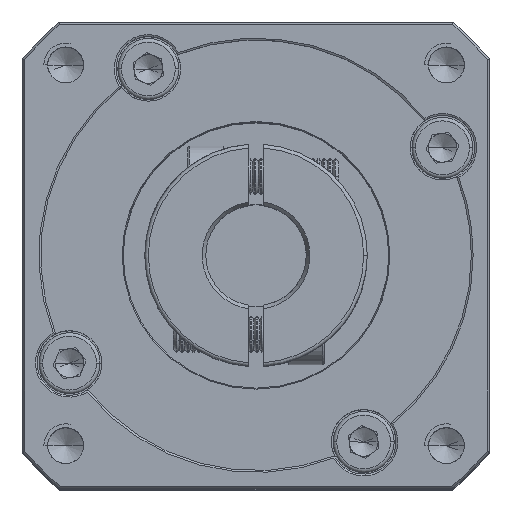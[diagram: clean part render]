
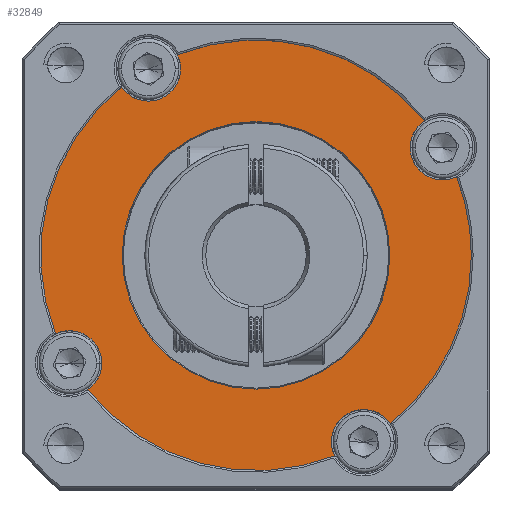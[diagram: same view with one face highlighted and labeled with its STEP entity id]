
A CAD part, top view. The second image highlights one B-rep face of the part: STEP entity #32849.
In plain terms, the highlighted planar face has unit normal (0, 0, 1).
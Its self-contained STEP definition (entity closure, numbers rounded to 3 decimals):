
#20 = VERTEX_POINT ( 'NONE', #7089 ) ;
#267 = CARTESIAN_POINT ( 'NONE',  ( -38.228, 3.707, 14.19 ) ) ;
#575 = CARTESIAN_POINT ( 'NONE',  ( -20.796, 40.632, 14.19 ) ) ;
#1557 = FACE_BOUND ( 'NONE', #57388, .T. ) ;
#2643 = AXIS2_PLACEMENT_3D ( 'NONE', #65575, #15089, #74072 ) ;
#3291 = CARTESIAN_POINT ( 'NONE',  ( -67.445, 53.132, 14.19 ) ) ;
#3900 = VERTEX_POINT ( 'NONE', #13888 ) ;
#4722 = ORIENTED_EDGE ( 'NONE', *, *, #51851, .F. ) ;
#4923 = ORIENTED_EDGE ( 'NONE', *, *, #6668, .F. ) ;
#6668 = EDGE_CURVE ( 'NONE', #83214, #20, #91219, .T. ) ;
#7089 = CARTESIAN_POINT ( 'NONE',  ( -76.66, 18.742, 14.19 ) ) ;
#7292 = CARTESIAN_POINT ( 'NONE',  ( -63.728, 55.668, 14.19 ) ) ;
#9215 = CARTESIAN_POINT ( 'NONE',  ( -22.747, 44.687, 14.19 ) ) ;
#9609 = EDGE_CURVE ( 'NONE', #46670, #53430, #36848, .T. ) ;
#9845 = CARTESIAN_POINT ( 'NONE',  ( -63.728, 55.668, 14.19 ) ) ;
#11677 = CARTESIAN_POINT ( 'NONE',  ( -48.728, 29.687, 14.19 ) ) ;
#12182 = CIRCLE ( 'NONE', #44906, 18.644 ) ;
#13844 = CIRCLE ( 'NONE', #50298, 30. ) ;
#13888 = CARTESIAN_POINT ( 'NONE',  ( -18.728, 29.687, 14.19 ) ) ;
#14749 = CARTESIAN_POINT ( 'NONE',  ( -74.709, 14.687, 14.19 ) ) ;
#14843 = CARTESIAN_POINT ( 'NONE',  ( -48.728, 29.687, 14.19 ) ) ;
#14980 = ORIENTED_EDGE ( 'NONE', *, *, #103178, .F. ) ;
#15089 = DIRECTION ( 'NONE',  ( 0., 0., -1. ) ) ;
#15280 = ORIENTED_EDGE ( 'NONE', *, *, #95419, .F. ) ;
#15794 = DIRECTION ( 'NONE',  ( 1., 0., 0. ) ) ;
#15863 = EDGE_CURVE ( 'NONE', #56618, #108224, #81700, .T. ) ;
#17709 = DIRECTION ( 'NONE',  ( 1., 0., 0. ) ) ;
#18352 = DIRECTION ( 'NONE',  ( 1., 0., 0. ) ) ;
#18980 = ORIENTED_EDGE ( 'NONE', *, *, #23046, .T. ) ;
#19310 = VERTEX_POINT ( 'NONE', #267 ) ;
#20194 = DIRECTION ( 'NONE',  ( 1., 0., 0. ) ) ;
#21512 = EDGE_CURVE ( 'NONE', #104061, #19310, #71854, .T. ) ;
#21548 = CIRCLE ( 'NONE', #47571, 4.5 ) ;
#23046 = EDGE_CURVE ( 'NONE', #104061, #3900, #89033, .T. ) ;
#23216 = DIRECTION ( 'NONE',  ( 1., 0., 0. ) ) ;
#23298 = DIRECTION ( 'NONE',  ( 1., 0., 0. ) ) ;
#23314 = VERTEX_POINT ( 'NONE', #108328 ) ;
#23394 = AXIS2_PLACEMENT_3D ( 'NONE', #9215, #68201, #17709 ) ;
#26822 = ORIENTED_EDGE ( 'NONE', *, *, #9609, .T. ) ;
#27272 = AXIS2_PLACEMENT_3D ( 'NONE', #33104, #32731, #32644 ) ;
#27386 = DIRECTION ( 'NONE',  ( 0., 0., 1. ) ) ;
#29544 = ORIENTED_EDGE ( 'NONE', *, *, #109252, .T. ) ;
#30443 = CARTESIAN_POINT ( 'NONE',  ( -33.728, 3.707, 14.19 ) ) ;
#30511 = CIRCLE ( 'NONE', #2643, 18.644 ) ;
#31710 = CIRCLE ( 'NONE', #39682, 4.5 ) ;
#32644 = DIRECTION ( 'NONE',  ( 1., 0., 0. ) ) ;
#32731 = DIRECTION ( 'NONE',  ( 0., 0., 1. ) ) ;
#32849 = ADVANCED_FACE ( 'NONE', ( #1557, #88678 ), #63364, .T. ) ;
#33104 = CARTESIAN_POINT ( 'NONE',  ( -74.709, 14.687, 14.19 ) ) ;
#33322 = CARTESIAN_POINT ( 'NONE',  ( -48.728, 29.687, 14.19 ) ) ;
#34139 = CARTESIAN_POINT ( 'NONE',  ( -59.673, 57.62, 14.19 ) ) ;
#34706 = CIRCLE ( 'NONE', #91579, 4.5 ) ;
#36848 = CIRCLE ( 'NONE', #89823, 30. ) ;
#37293 = DIRECTION ( 'NONE',  ( 0., 0., 1. ) ) ;
#37848 = CIRCLE ( 'NONE', #77724, 30. ) ;
#37945 = DIRECTION ( 'NONE',  ( 0., 0., 1. ) ) ;
#38953 = DIRECTION ( 'NONE',  ( 1., 0., 0. ) ) ;
#39367 = CIRCLE ( 'NONE', #40530, 30. ) ;
#39682 = AXIS2_PLACEMENT_3D ( 'NONE', #77879, #27386, #86416 ) ;
#39959 = CIRCLE ( 'NONE', #72295, 4.5 ) ;
#40530 = AXIS2_PLACEMENT_3D ( 'NONE', #87842, #37293, #96345 ) ;
#41150 = VERTEX_POINT ( 'NONE', #3291 ) ;
#41566 = VERTEX_POINT ( 'NONE', #45910 ) ;
#41811 = DIRECTION ( 'NONE',  ( 1., 0., 0. ) ) ;
#42485 = CARTESIAN_POINT ( 'NONE',  ( -30.01, 6.243, 14.19 ) ) ;
#42524 = ORIENTED_EDGE ( 'NONE', *, *, #78031, .T. ) ;
#43070 = VERTEX_POINT ( 'NONE', #69309 ) ;
#44906 = AXIS2_PLACEMENT_3D ( 'NONE', #47959, #107041, #56372 ) ;
#45910 = CARTESIAN_POINT ( 'NONE',  ( -59.228, 55.668, 14.19 ) ) ;
#45917 = EDGE_CURVE ( 'NONE', #46670, #83214, #21548, .T. ) ;
#46670 = VERTEX_POINT ( 'NONE', #50610 ) ;
#46774 = DIRECTION ( 'NONE',  ( 0., 0., 1. ) ) ;
#47571 = AXIS2_PLACEMENT_3D ( 'NONE', #14749, #73757, #23216 ) ;
#47959 = CARTESIAN_POINT ( 'NONE',  ( -48.728, 29.687, 14.19 ) ) ;
#50298 = AXIS2_PLACEMENT_3D ( 'NONE', #33322, #92429, #41811 ) ;
#50610 = CARTESIAN_POINT ( 'NONE',  ( -72.173, 10.97, 14.19 ) ) ;
#51295 = EDGE_CURVE ( 'NONE', #41150, #20, #13844, .T. ) ;
#51851 = EDGE_CURVE ( 'NONE', #41566, #67834, #39959, .T. ) ;
#53430 = VERTEX_POINT ( 'NONE', #61710 ) ;
#54884 = ORIENTED_EDGE ( 'NONE', *, *, #51295, .T. ) ;
#56372 = DIRECTION ( 'NONE',  ( 1., 0., 0. ) ) ;
#56618 = VERTEX_POINT ( 'NONE', #81803 ) ;
#57388 = EDGE_LOOP ( 'NONE', ( #76835, #42524 ) ) ;
#59906 = ORIENTED_EDGE ( 'NONE', *, *, #88084, .F. ) ;
#61710 = CARTESIAN_POINT ( 'NONE',  ( -37.783, 1.755, 14.19 ) ) ;
#63364 = PLANE ( 'NONE',  #106286 ) ;
#63919 = ORIENTED_EDGE ( 'NONE', *, *, #85851, .T. ) ;
#65575 = CARTESIAN_POINT ( 'NONE',  ( -48.728, 29.687, 14.19 ) ) ;
#66278 = DIRECTION ( 'NONE',  ( 0., 0., 1. ) ) ;
#67035 = CIRCLE ( 'NONE', #94970, 4.5 ) ;
#67834 = VERTEX_POINT ( 'NONE', #34139 ) ;
#68013 = EDGE_LOOP ( 'NONE', ( #95446, #26822, #14980, #87571, #18980, #29544, #59906, #75763, #63919, #4722, #15280, #54884, #4923 ) ) ;
#68201 = DIRECTION ( 'NONE',  ( 0., 0., 1. ) ) ;
#68844 = DIRECTION ( 'NONE',  ( 0., 0., 1. ) ) ;
#69309 = CARTESIAN_POINT ( 'NONE',  ( -67.372, 29.687, 14.19 ) ) ;
#70721 = DIRECTION ( 'NONE',  ( 0., 0., 1. ) ) ;
#71854 = CIRCLE ( 'NONE', #73719, 4.5 ) ;
#72295 = AXIS2_PLACEMENT_3D ( 'NONE', #7292, #66278, #15794 ) ;
#73719 = AXIS2_PLACEMENT_3D ( 'NONE', #30443, #89501, #38953 ) ;
#73757 = DIRECTION ( 'NONE',  ( 0., 0., 1. ) ) ;
#73841 = DIRECTION ( 'NONE',  ( 0., 0., 1. ) ) ;
#74072 = DIRECTION ( 'NONE',  ( 1., 0., 0. ) ) ;
#75763 = ORIENTED_EDGE ( 'NONE', *, *, #15863, .F. ) ;
#76835 = ORIENTED_EDGE ( 'NONE', *, *, #83574, .T. ) ;
#77724 = AXIS2_PLACEMENT_3D ( 'NONE', #14843, #73841, #23298 ) ;
#77879 = CARTESIAN_POINT ( 'NONE',  ( -22.747, 44.687, 14.19 ) ) ;
#78031 = EDGE_CURVE ( 'NONE', #43070, #23314, #30511, .T. ) ;
#81700 = CIRCLE ( 'NONE', #23394, 4.5 ) ;
#81803 = CARTESIAN_POINT ( 'NONE',  ( -25.283, 48.405, 14.19 ) ) ;
#83214 = VERTEX_POINT ( 'NONE', #102285 ) ;
#83574 = EDGE_CURVE ( 'NONE', #23314, #43070, #12182, .T. ) ;
#83797 = DIRECTION ( 'NONE',  ( 1., 0., 0. ) ) ;
#83888 = DIRECTION ( 'NONE',  ( 0., 0., 1. ) ) ;
#84015 = CARTESIAN_POINT ( 'NONE',  ( -48.728, 29.687, 14.19 ) ) ;
#85196 = AXIS2_PLACEMENT_3D ( 'NONE', #11677, #70721, #20194 ) ;
#85851 = EDGE_CURVE ( 'NONE', #56618, #67834, #37848, .T. ) ;
#86416 = DIRECTION ( 'NONE',  ( 1., 0., 0. ) ) ;
#87571 = ORIENTED_EDGE ( 'NONE', *, *, #21512, .F. ) ;
#87842 = CARTESIAN_POINT ( 'NONE',  ( -48.728, 29.687, 14.19 ) ) ;
#88084 = EDGE_CURVE ( 'NONE', #108224, #108518, #31710, .T. ) ;
#88506 = CARTESIAN_POINT ( 'NONE',  ( -33.728, 3.707, 14.19 ) ) ;
#88678 = FACE_OUTER_BOUND ( 'NONE', #68013, .T. ) ;
#89033 = CIRCLE ( 'NONE', #85196, 30. ) ;
#89501 = DIRECTION ( 'NONE',  ( 0., 0., 1. ) ) ;
#89823 = AXIS2_PLACEMENT_3D ( 'NONE', #84015, #83888, #83797 ) ;
#91219 = CIRCLE ( 'NONE', #27272, 4.5 ) ;
#91579 = AXIS2_PLACEMENT_3D ( 'NONE', #88506, #37945, #96985 ) ;
#92429 = DIRECTION ( 'NONE',  ( 0., 0., 1. ) ) ;
#94970 = AXIS2_PLACEMENT_3D ( 'NONE', #9845, #68844, #18352 ) ;
#95419 = EDGE_CURVE ( 'NONE', #41150, #41566, #67035, .T. ) ;
#95446 = ORIENTED_EDGE ( 'NONE', *, *, #45917, .F. ) ;
#96345 = DIRECTION ( 'NONE',  ( 1., 0., 0. ) ) ;
#96985 = DIRECTION ( 'NONE',  ( 1., 0., 0. ) ) ;
#97340 = CARTESIAN_POINT ( 'NONE',  ( -48.728, 29.687, 14.19 ) ) ;
#102285 = CARTESIAN_POINT ( 'NONE',  ( -70.209, 14.687, 14.19 ) ) ;
#103178 = EDGE_CURVE ( 'NONE', #19310, #53430, #34706, .T. ) ;
#104061 = VERTEX_POINT ( 'NONE', #42485 ) ;
#104755 = CARTESIAN_POINT ( 'NONE',  ( -27.247, 44.687, 14.19 ) ) ;
#105864 = DIRECTION ( 'NONE',  ( 1., 0., 0. ) ) ;
#106286 = AXIS2_PLACEMENT_3D ( 'NONE', #97340, #46774, #105864 ) ;
#107041 = DIRECTION ( 'NONE',  ( 0., 0., -1. ) ) ;
#108224 = VERTEX_POINT ( 'NONE', #104755 ) ;
#108328 = CARTESIAN_POINT ( 'NONE',  ( -30.083, 29.687, 14.19 ) ) ;
#108518 = VERTEX_POINT ( 'NONE', #575 ) ;
#109252 = EDGE_CURVE ( 'NONE', #3900, #108518, #39367, .T. ) ;
